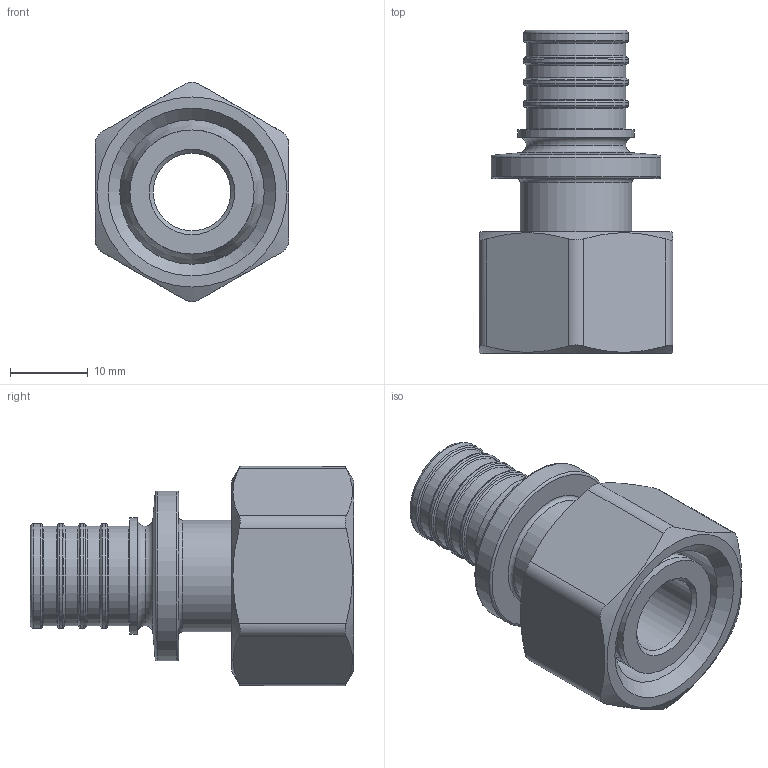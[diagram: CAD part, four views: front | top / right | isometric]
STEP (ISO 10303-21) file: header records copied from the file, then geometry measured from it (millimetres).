
FILE_DESCRIPTION(('STEP AP203'), '1');
FILE_NAME('ﾂﾐ.302612.012.000 ﾑﾁ - VTm.422.GE.001604 ﾔ頸. - 裝', '2024-01-23T13:23:34', ('User'), ('Vesta'), 'C3D Converter', 'C3D Toolkit', '');
FILE_SCHEMA(('CONFIG_CONTROL_DESIGN'));
Length unit declared in the file: millimetre
Products named in the file (6): ВР.302612.012 СБ; ВР.758421.027; ВР.753612.002; ВР.302612.012.001; ВР.714641.010
Assembly tree (6 placements, depth 3):
  ВР.302612.012 СБ
    ВР.758421.027
    ВР.753612.002
    ВР.302612.012.001
      ВР.714641.010
      (unnamed)  x2
Bounding box: 25 x 41.65 x 28.24 mm (x, y, z)
Volume: 8338.7 mm3; surface area: 7685.7 mm2
Topology: 5 solids, 5 shells, 92 faces, 185 edges, 108 vertices
Faces by surface type: torus 33, cylinder 28, plane 21, cone 10
Full cylindrical faces by diameter (mm): 10 x1, 12.8 x4, 13.4 x2, 13.5 x4, 14.4 x1, 15 x1, 16 x3, 16.5 x1, 18.632 x2, 18.7 x1, 20.7 x1, 21.9 x1
Entity records: 3432 total; most frequent: CARTESIAN_POINT 1455, DIRECTION 368, ORIENTED_EDGE 240, AXIS2_PLACEMENT_3D 178, EDGE_LOOP 164, EDGE_CURVE 120, FACE_OUTER_BOUND 112, VERTEX_POINT 107
